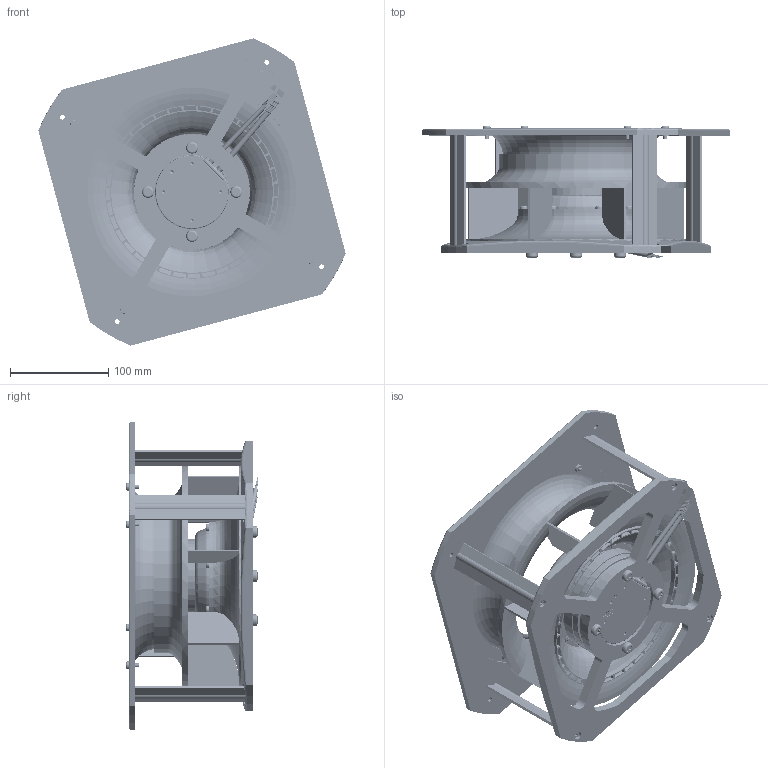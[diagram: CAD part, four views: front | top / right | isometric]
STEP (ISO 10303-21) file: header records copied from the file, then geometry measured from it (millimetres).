
FILE_DESCRIPTION((''),'2;1');
FILE_NAME('GTB023_ASM','2017-09-15T',('WEIBO.DING'),(''),'PRO/ENGINEER BY PARAMETRIC TECHNOLOGY CORPORATION, 2011490','PRO/ENGINEER BY PARAMETRIC TECHNOLOGY CORPORATION, 2011490','');
FILE_SCHEMA(('CONFIG_CONTROL_DESIGN'));
Length unit declared in the file: millimetre
Products named in the file (67): O-RING_5-2_1; O-RING_4_8-1_9_1; M3-SCREW_5L_1; _____6_3_1; M5________10_1; OD55_CAP__170W__N3_TEMP1_170W__; ____-____1_1__1; ____-____1_2__1; ____-____3_2__1; ____-____3_1__1; 85W_CABLE_170W_ASM_1_ASM; _____5_3_1; OD55_CABLE_COVER_170W_1; OD55_170W_CAP___ASM_1_ASM; ____6_1; ____8-357120_1; OD55_CASE_170W__B____COATING__T_ASM; C-RING_DEFAULT_1; PRT0001_2; OD55_ROTOR__87W_170W__170W____K_ASM; ______NN_1; ____-____29_1; _____M___1; _______S___C28_2__1; _______S___C28_1__1; _______S___C28_3__1; ___PIN_U_-____X1__1; _______S___C28_4__1; OD55_SI-STEEL_ALL-_INSER-521367_ASM; 170W_W_L_BMC_ASM_1_ASM; _608ZZ_CAGE-1-SOLID1_1; _608ZZ_IR-1-SOLID1_1; _608ZZ_BALL-5-SOLID1_1; _608ZZ_BALL-4-SOLID1_1; _608ZZ_BALL-2-SOLID1_1; _608ZZ_BALL-1-SOLID1_1; _608ZZ_BALL-3-SOLID1_1; _608ZZ_OR-1-SOLID1_1; _608ZZ_BALL-6-SOLID1_1; _608ZZ_BALL-7-SOLID1_1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
Assembly tree (96 placements, depth 9):
  GTB023_ASM
    170W_ALL_ASM_ASM
      170W_ALL_ASM_18_ASM
        ASM0001_ASM_2_ASM
          ASM0002_ASM_1_ASM
            OD55_170W_CAP___ASM_1_ASM
              O-RING_5-2_1
              O-RING_4_8-1_9_1
              M3-SCREW_5L_1  x3
              _____6_3_1
              M5________10_1  x3
              OD55_CAP__170W__N3_TEMP1_170W__
              85W_CABLE_170W_ASM_1_ASM
                ____-____1_1__1
                ____-____1_2__1
                ____-____3_2__1
                ____-____3_1__1
              _____5_3_1
              OD55_CABLE_COVER_170W_1
            OD55_ROTOR__87W_170W__170W____K_ASM
              OD55_CASE_170W__B____COATING__T_ASM
                ____6_1
                ____8-357120_1
              C-RING_DEFAULT_1
              PRT0001_2
            170W_TPILLOW_BMC_ASM_1_ASM
              ______NN_1
              170W_W_L_BMC_ASM_1_ASM
                OD55_SI-STEEL_ALL-_INSER-521367_ASM
                  ____-____29_1
                  _____M___1
                  _______S___C28_2__1
                  _______S___C28_1__1
                  _______S___C28_3__1
                  ___PIN_U_-____X1__1
                  _______S___C28_4__1
              608ZZ_BEARING_ASM_1_ASM  x2
                _608ZZ_CAGE-1-SOLID1_1
                _608ZZ_IR-1-SOLID1_1
                _608ZZ_BALL-5-SOLID1_1
                _608ZZ_BALL-4-SOLID1_1
                _608ZZ_BALL-2-SOLID1_1
                _608ZZ_BALL-1-SOLID1_1
                _608ZZ_BALL-3-SOLID1_1
                _608ZZ_OR-1-SOLID1_1
                _608ZZ_BALL-6-SOLID1_1
                _608ZZ_BALL-7-SOLID1_1
                _608ZZ_SHIELD-2-SOLID1_1
                _608ZZ_SHIELD-1-SOLID1_1
              PRODUCT_393025_1
              OD55__TPILLOW_FOR_BMC_170W__TPI_ASM
                _H_________1
                ____187_1
              WAVE_SPRING_608_______1
              _____J___1
        TORX_M4_L6_2_1  x7
    IMPELLER
    PLASTIC_BRACKET_ASM
      BRACKET_PLASTIC_ASM_10_ASM_ASM
        BRACKET_BOTTOM_20
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Bounding box: 312.99 x 134.88 x 312.99 mm (x, y, z)
Volume: 938787.5 mm3; surface area: 711975.4 mm2
Topology: 93 solids, 306 shells, 5957 faces, 14480 edges, 9234 vertices
Faces by surface type: plane 2375, cylinder 1784, torus 626, bspline 483, cone 313, extrusion 267, sphere 109
Entity records: 196874 total; most frequent: CARTESIAN_POINT 76705, DIRECTION 24686, ORIENTED_EDGE 24506, EDGE_CURVE 12253, AXIS2_PLACEMENT_3D 9483, VERTEX_POINT 7864, VECTOR 5720, EDGE_LOOP 5617
